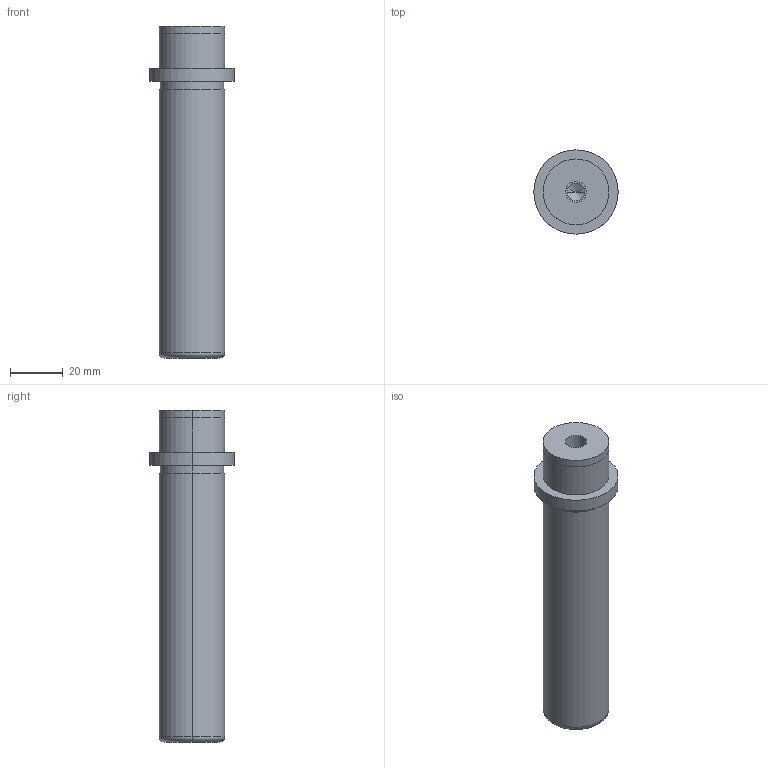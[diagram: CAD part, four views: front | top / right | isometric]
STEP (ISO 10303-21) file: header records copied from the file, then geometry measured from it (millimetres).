
FILE_DESCRIPTION(/* description */ (''),/* implementation_level */ '2;1');
FILE_NAME(/* name */ '3d_sgpw25-110_05246_r00.stp',/* time_stamp */ '2011-01-10T14:11:03+09:00',/* author */ ('MISUMI'),/* organization */ (''),/* preprocessor_version */ 'ST-DEVELOPER v11',/* originating_system */ 'UGS - NX 5.0',/* authorisation */ '');
FILE_SCHEMA (('CONFIG_CONTROL_DESIGN'));
Length unit declared in the file: millimetre
Products named in the file (1): 3d_sgpw25-110_05246_r00
Bounding box: 32 x 32 x 126 mm (x, y, z)
Volume: 61234.2 mm3; surface area: 12614.3 mm2
Topology: 1 solids, 1 shells, 31 faces, 64 edges, 38 vertices
Faces by surface type: cylinder 18, plane 7, cone 4, torus 2
Entity records: 890 total; most frequent: DIRECTION 162, CARTESIAN_POINT 130, ORIENTED_EDGE 120, AXIS2_PLACEMENT_3D 70, EDGE_CURVE 60, EDGE_LOOP 38, CIRCLE 38, VERTEX_POINT 38
